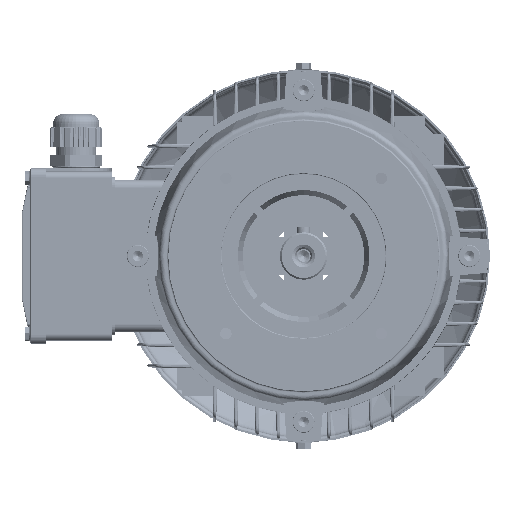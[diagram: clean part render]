
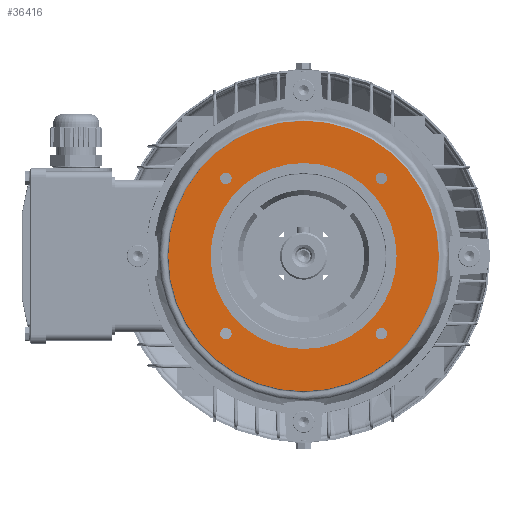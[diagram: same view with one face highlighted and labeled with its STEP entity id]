
A CAD part, left-side view. The second image highlights one B-rep face of the part: STEP entity #36416.
In plain terms, the highlighted planar face has unit normal (-1, 0, 0).
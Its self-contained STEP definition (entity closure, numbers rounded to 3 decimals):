
#2090 = ORIENTED_EDGE ( 'NONE', *, *, #74964, .T. ) ;
#2272 = EDGE_CURVE ( 'NONE', #30964, #38046, #77714, .T. ) ;
#5718 = DIRECTION ( 'NONE',  ( 0., 0., 1. ) ) ;
#6644 = CARTESIAN_POINT ( 'NONE',  ( -16., -45.962, 45.962 ) ) ;
#7225 = ORIENTED_EDGE ( 'NONE', *, *, #100832, .T. ) ;
#9266 = DIRECTION ( 'NONE',  ( 1., 0., 0. ) ) ;
#9977 = ORIENTED_EDGE ( 'NONE', *, *, #119739, .T. ) ;
#11720 = CARTESIAN_POINT ( 'NONE',  ( -16., -45.962, -45.962 ) ) ;
#12498 = CARTESIAN_POINT ( 'NONE',  ( -16., 0., -80. ) ) ;
#15964 = DIRECTION ( 'NONE',  ( -1., 0., 0. ) ) ;
#17332 = FACE_BOUND ( 'NONE', #107646, .T. ) ;
#18737 = EDGE_CURVE ( 'NONE', #80414, #71530, #90799, .T. ) ;
#22861 = ORIENTED_EDGE ( 'NONE', *, *, #116760, .T. ) ;
#23986 = EDGE_LOOP ( 'NONE', ( #101445, #9977 ) ) ;
#25255 = VERTEX_POINT ( 'NONE', #117317 ) ;
#26241 = EDGE_LOOP ( 'NONE', ( #63558, #22861 ) ) ;
#26461 = EDGE_CURVE ( 'NONE', #54874, #108219, #95849, .T. ) ;
#26673 = CIRCLE ( 'NONE', #49359, 3.4 ) ;
#27958 = CARTESIAN_POINT ( 'NONE',  ( -16., 0., 0. ) ) ;
#29054 = ORIENTED_EDGE ( 'NONE', *, *, #89992, .T. ) ;
#30964 = VERTEX_POINT ( 'NONE', #46656 ) ;
#31735 = VERTEX_POINT ( 'NONE', #81411 ) ;
#32048 = CIRCLE ( 'NONE', #61799, 3.4 ) ;
#33192 = EDGE_CURVE ( 'NONE', #31735, #51476, #120441, .T. ) ;
#33391 = VERTEX_POINT ( 'NONE', #12498 ) ;
#36060 = CIRCLE ( 'NONE', #81854, 80. ) ;
#36416 = ADVANCED_FACE ( 'NONE', ( #63435, #63561, #17332, #45971, #53860, #114212 ), #121962, .F. ) ;
#38046 = VERTEX_POINT ( 'NONE', #98809 ) ;
#44667 = CIRCLE ( 'NONE', #64344, 55. ) ;
#44697 = EDGE_CURVE ( 'NONE', #108219, #54874, #85297, .T. ) ;
#45072 = AXIS2_PLACEMENT_3D ( 'NONE', #6644, #126130, #95086 ) ;
#45801 = DIRECTION ( 'NONE',  ( 1., 0., 0. ) ) ;
#45971 = FACE_BOUND ( 'NONE', #94393, .T. ) ;
#46003 = EDGE_LOOP ( 'NONE', ( #50862, #86376 ) ) ;
#46656 = CARTESIAN_POINT ( 'NONE',  ( -16., 45.962, 42.562 ) ) ;
#47496 = AXIS2_PLACEMENT_3D ( 'NONE', #112932, #62356, #71273 ) ;
#49341 = DIRECTION ( 'NONE',  ( 0., 0., 1. ) ) ;
#49359 = AXIS2_PLACEMENT_3D ( 'NONE', #127892, #45801, #116818 ) ;
#49758 = CARTESIAN_POINT ( 'NONE',  ( -16., 45.962, 45.962 ) ) ;
#49787 = CARTESIAN_POINT ( 'NONE',  ( -16., -45.962, -49.362 ) ) ;
#50026 = DIRECTION ( 'NONE',  ( 0., 0., -1. ) ) ;
#50862 = ORIENTED_EDGE ( 'NONE', *, *, #18737, .F. ) ;
#51476 = VERTEX_POINT ( 'NONE', #52633 ) ;
#51965 = CIRCLE ( 'NONE', #79486, 3.4 ) ;
#52633 = CARTESIAN_POINT ( 'NONE',  ( -16., 45.962, -42.562 ) ) ;
#53229 = AXIS2_PLACEMENT_3D ( 'NONE', #76886, #15964, #5718 ) ;
#53860 = FACE_OUTER_BOUND ( 'NONE', #26241, .T. ) ;
#54874 = VERTEX_POINT ( 'NONE', #59345 ) ;
#55626 = VERTEX_POINT ( 'NONE', #49787 ) ;
#56535 = DIRECTION ( 'NONE',  ( 1., 0., 0. ) ) ;
#57122 = VERTEX_POINT ( 'NONE', #110498 ) ;
#58007 = AXIS2_PLACEMENT_3D ( 'NONE', #61141, #120629, #50026 ) ;
#59221 = DIRECTION ( 'NONE',  ( 0., 0., -1. ) ) ;
#59345 = CARTESIAN_POINT ( 'NONE',  ( -16., -45.962, 42.562 ) ) ;
#61141 = CARTESIAN_POINT ( 'NONE',  ( -16., 55., 0. ) ) ;
#61799 = AXIS2_PLACEMENT_3D ( 'NONE', #107140, #56535, #79619 ) ;
#62356 = DIRECTION ( 'NONE',  ( 1., 0., 0. ) ) ;
#63435 = FACE_BOUND ( 'NONE', #23986, .T. ) ;
#63558 = ORIENTED_EDGE ( 'NONE', *, *, #86409, .T. ) ;
#63561 = FACE_BOUND ( 'NONE', #90133, .T. ) ;
#64344 = AXIS2_PLACEMENT_3D ( 'NONE', #27958, #90176, #68893 ) ;
#68669 = DIRECTION ( 'NONE',  ( 1., 0., 0. ) ) ;
#68893 = DIRECTION ( 'NONE',  ( 0., 0., 1. ) ) ;
#71273 = DIRECTION ( 'NONE',  ( 0., 0., -1. ) ) ;
#71530 = VERTEX_POINT ( 'NONE', #115442 ) ;
#72591 = CIRCLE ( 'NONE', #53229, 80. ) ;
#74964 = EDGE_CURVE ( 'NONE', #51476, #31735, #26673, .T. ) ;
#76203 = AXIS2_PLACEMENT_3D ( 'NONE', #129840, #68669, #119625 ) ;
#76337 = ORIENTED_EDGE ( 'NONE', *, *, #44697, .T. ) ;
#76886 = CARTESIAN_POINT ( 'NONE',  ( -16., 0., 0. ) ) ;
#77714 = CIRCLE ( 'NONE', #76203, 3.4 ) ;
#79486 = AXIS2_PLACEMENT_3D ( 'NONE', #49758, #9266, #90701 ) ;
#79619 = DIRECTION ( 'NONE',  ( 0., 0., -1. ) ) ;
#80414 = VERTEX_POINT ( 'NONE', #121100 ) ;
#81411 = CARTESIAN_POINT ( 'NONE',  ( -16., 45.962, -49.362 ) ) ;
#81854 = AXIS2_PLACEMENT_3D ( 'NONE', #95034, #105199, #105628 ) ;
#82453 = DIRECTION ( 'NONE',  ( 1., 0., 0. ) ) ;
#85297 = CIRCLE ( 'NONE', #45072, 3.4 ) ;
#86376 = ORIENTED_EDGE ( 'NONE', *, *, #91433, .F. ) ;
#86409 = EDGE_CURVE ( 'NONE', #25255, #33391, #72591, .T. ) ;
#88160 = CARTESIAN_POINT ( 'NONE',  ( -16., -45.962, 45.962 ) ) ;
#89806 = DIRECTION ( 'NONE',  ( -1., 0., 0. ) ) ;
#89992 = EDGE_CURVE ( 'NONE', #57122, #55626, #102092, .T. ) ;
#90133 = EDGE_LOOP ( 'NONE', ( #107835, #76337 ) ) ;
#90176 = DIRECTION ( 'NONE',  ( -1., 0., 0. ) ) ;
#90256 = CARTESIAN_POINT ( 'NONE',  ( -16., 0., 0. ) ) ;
#90701 = DIRECTION ( 'NONE',  ( 0., 0., -1. ) ) ;
#90799 = CIRCLE ( 'NONE', #121163, 55. ) ;
#91433 = EDGE_CURVE ( 'NONE', #71530, #80414, #44667, .T. ) ;
#92229 = CARTESIAN_POINT ( 'NONE',  ( -16., -45.962, 49.362 ) ) ;
#92705 = DIRECTION ( 'NONE',  ( 0., 0., -1. ) ) ;
#94393 = EDGE_LOOP ( 'NONE', ( #126653, #2090 ) ) ;
#95034 = CARTESIAN_POINT ( 'NONE',  ( -16., 0., 0. ) ) ;
#95086 = DIRECTION ( 'NONE',  ( 0., 0., -1. ) ) ;
#95849 = CIRCLE ( 'NONE', #129184, 3.4 ) ;
#98809 = CARTESIAN_POINT ( 'NONE',  ( -16., 45.962, 49.362 ) ) ;
#100832 = EDGE_CURVE ( 'NONE', #55626, #57122, #32048, .T. ) ;
#101445 = ORIENTED_EDGE ( 'NONE', *, *, #2272, .T. ) ;
#102092 = CIRCLE ( 'NONE', #118801, 3.4 ) ;
#105199 = DIRECTION ( 'NONE',  ( -1., 0., 0. ) ) ;
#105628 = DIRECTION ( 'NONE',  ( 0., 0., 1. ) ) ;
#107140 = CARTESIAN_POINT ( 'NONE',  ( -16., -45.962, -45.962 ) ) ;
#107646 = EDGE_LOOP ( 'NONE', ( #7225, #29054 ) ) ;
#107835 = ORIENTED_EDGE ( 'NONE', *, *, #26461, .T. ) ;
#108219 = VERTEX_POINT ( 'NONE', #92229 ) ;
#110498 = CARTESIAN_POINT ( 'NONE',  ( -16., -45.962, -42.562 ) ) ;
#112932 = CARTESIAN_POINT ( 'NONE',  ( -16., 45.962, -45.962 ) ) ;
#114212 = FACE_BOUND ( 'NONE', #46003, .T. ) ;
#115442 = CARTESIAN_POINT ( 'NONE',  ( -16., 0., -55. ) ) ;
#116760 = EDGE_CURVE ( 'NONE', #33391, #25255, #36060, .T. ) ;
#116818 = DIRECTION ( 'NONE',  ( 0., 0., -1. ) ) ;
#117317 = CARTESIAN_POINT ( 'NONE',  ( -16., 0., 80. ) ) ;
#118801 = AXIS2_PLACEMENT_3D ( 'NONE', #11720, #82453, #92705 ) ;
#119625 = DIRECTION ( 'NONE',  ( 0., 0., -1. ) ) ;
#119739 = EDGE_CURVE ( 'NONE', #38046, #30964, #51965, .T. ) ;
#120441 = CIRCLE ( 'NONE', #47496, 3.4 ) ;
#120629 = DIRECTION ( 'NONE',  ( 1., 0., 0. ) ) ;
#121100 = CARTESIAN_POINT ( 'NONE',  ( -16., 0., 55. ) ) ;
#121163 = AXIS2_PLACEMENT_3D ( 'NONE', #90256, #89806, #49341 ) ;
#121962 = PLANE ( 'NONE',  #58007 ) ;
#126130 = DIRECTION ( 'NONE',  ( 1., 0., 0. ) ) ;
#126653 = ORIENTED_EDGE ( 'NONE', *, *, #33192, .T. ) ;
#127892 = CARTESIAN_POINT ( 'NONE',  ( -16., 45.962, -45.962 ) ) ;
#128458 = DIRECTION ( 'NONE',  ( 1., 0., 0. ) ) ;
#129184 = AXIS2_PLACEMENT_3D ( 'NONE', #88160, #128458, #59221 ) ;
#129840 = CARTESIAN_POINT ( 'NONE',  ( -16., 45.962, 45.962 ) ) ;
